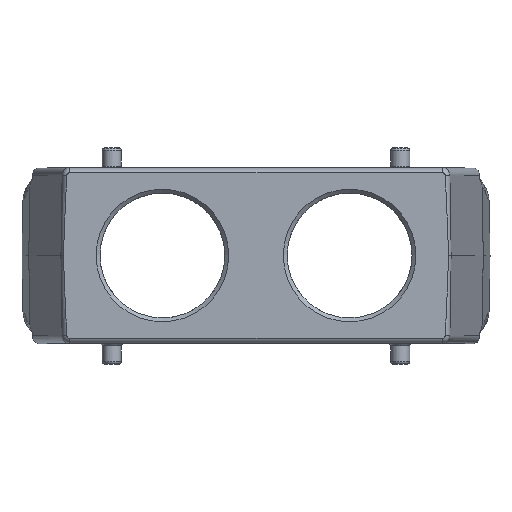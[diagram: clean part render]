
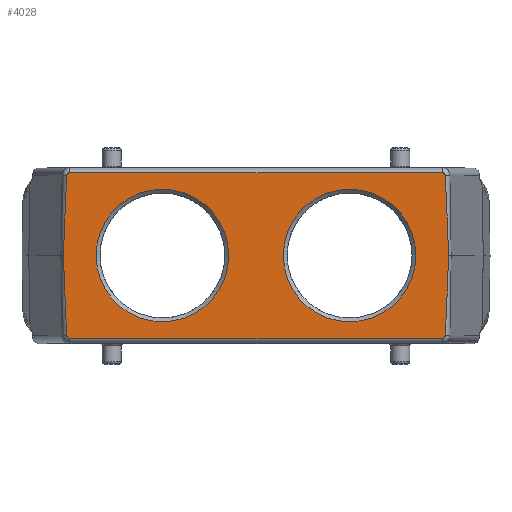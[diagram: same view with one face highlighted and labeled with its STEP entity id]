
A CAD part, top view. The second image highlights one B-rep face of the part: STEP entity #4028.
In plain terms, the highlighted planar face has unit normal (0, 0, 1).
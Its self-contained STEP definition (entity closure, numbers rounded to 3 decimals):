
#2940=ELLIPSE('',#10520,114.609,2.);
#2941=ELLIPSE('',#10525,114.609,2.);
#2942=ELLIPSE('',#10535,114.609,2.);
#2944=ELLIPSE('',#10540,114.609,2.);
#4028=ADVANCED_FACE('',(#5336,#5337,#5338),#4250,.T.);
#4250=PLANE('',#11085);
#4330=LINE('',#13433,#4819);
#4334=LINE('',#13466,#4823);
#4819=VECTOR('',#11341,1.);
#4823=VECTOR('',#11379,1.);
#5336=FACE_BOUND('',#5863,.T.);
#5337=FACE_BOUND('',#5864,.T.);
#5338=FACE_BOUND('',#5865,.T.);
#5863=EDGE_LOOP('',(#7910));
#5864=EDGE_LOOP('',(#7911));
#5865=EDGE_LOOP('',(#7912,#7913,#7914,#7915,#7916,#7917,#7918,#7919,#7920,
#7921));
#7910=ORIENTED_EDGE('',*,*,#9721,.T.);
#7911=ORIENTED_EDGE('',*,*,#9722,.T.);
#7912=ORIENTED_EDGE('',*,*,#8833,.F.);
#7913=ORIENTED_EDGE('',*,*,#8839,.F.);
#7914=ORIENTED_EDGE('',*,*,#8845,.F.);
#7915=ORIENTED_EDGE('',*,*,#8851,.F.);
#7916=ORIENTED_EDGE('',*,*,#8856,.F.);
#7917=ORIENTED_EDGE('',*,*,#8853,.F.);
#7918=ORIENTED_EDGE('',*,*,#8847,.F.);
#7919=ORIENTED_EDGE('',*,*,#8841,.F.);
#7920=ORIENTED_EDGE('',*,*,#8835,.F.);
#7921=ORIENTED_EDGE('',*,*,#8829,.F.);
#8136=VERTEX_POINT('',#13420);
#8137=VERTEX_POINT('',#13422);
#8139=VERTEX_POINT('',#13428);
#8141=VERTEX_POINT('',#13434);
#8143=VERTEX_POINT('',#13440);
#8145=VERTEX_POINT('',#13446);
#8148=VERTEX_POINT('',#13453);
#8149=VERTEX_POINT('',#13458);
#8151=VERTEX_POINT('',#13464);
#8153=VERTEX_POINT('',#13470);
#8682=VERTEX_POINT('',#18528);
#8683=VERTEX_POINT('',#18530);
#8829=EDGE_CURVE('',#8136,#8137,#9786,.T.);
#8833=EDGE_CURVE('',#8139,#8136,#2940,.T.);
#8835=EDGE_CURVE('',#8137,#8141,#4330,.T.);
#8839=EDGE_CURVE('',#8143,#8139,#2941,.T.);
#8841=EDGE_CURVE('',#8141,#8145,#9791,.T.);
#8845=EDGE_CURVE('',#8148,#8143,#9795,.T.);
#8847=EDGE_CURVE('',#8145,#8149,#2942,.T.);
#8851=EDGE_CURVE('',#8151,#8148,#4334,.T.);
#8853=EDGE_CURVE('',#8149,#8153,#2944,.T.);
#8856=EDGE_CURVE('',#8153,#8151,#9799,.T.);
#9721=EDGE_CURVE('',#8682,#8682,#9966,.T.);
#9722=EDGE_CURVE('',#8683,#8683,#9967,.T.);
#9786=CIRCLE('',#10515,0.74);
#9791=CIRCLE('',#10527,0.74);
#9795=CIRCLE('',#10532,0.74);
#9799=CIRCLE('',#10543,0.74);
#9966=CIRCLE('',#11083,17.);
#9967=CIRCLE('',#11084,17.);
#10515=AXIS2_PLACEMENT_3D('',#13421,#11326,#11327);
#10520=AXIS2_PLACEMENT_3D('',#13430,#11336,#11337);
#10525=AXIS2_PLACEMENT_3D('',#13442,#11349,#11350);
#10527=AXIS2_PLACEMENT_3D('',#13445,#11354,#11355);
#10532=AXIS2_PLACEMENT_3D('',#13454,#11364,#11365);
#10535=AXIS2_PLACEMENT_3D('',#13457,#11370,#11371);
#10540=AXIS2_PLACEMENT_3D('',#13469,#11383,#11384);
#10543=AXIS2_PLACEMENT_3D('',#13475,#11390,#11391);
#11083=AXIS2_PLACEMENT_3D('',#18527,#12897,#12898);
#11084=AXIS2_PLACEMENT_3D('',#18529,#12899,#12900);
#11085=AXIS2_PLACEMENT_3D('',#18531,#12901,#12902);
#11326=DIRECTION('',(0.,0.,-1.));
#11327=DIRECTION('',(-1.,0.,0.));
#11336=DIRECTION('',(0.,0.,-1.));
#11337=DIRECTION('',(-0.014,-1.,0.));
#11341=DIRECTION('',(1.,0.,0.));
#11349=DIRECTION('',(0.,0.,-1.));
#11350=DIRECTION('',(0.014,-1.,0.));
#11354=DIRECTION('',(0.,0.,-1.));
#11355=DIRECTION('',(-1.,0.,0.));
#11364=DIRECTION('',(0.,0.,-1.));
#11365=DIRECTION('',(-1.,0.,0.));
#11370=DIRECTION('',(0.,0.,-1.));
#11371=DIRECTION('',(0.014,-1.,0.));
#11379=DIRECTION('',(-1.,0.,0.));
#11383=DIRECTION('',(0.,0.,-1.));
#11384=DIRECTION('',(-0.014,-1.,0.));
#11390=DIRECTION('',(0.,0.,-1.));
#11391=DIRECTION('',(-1.,0.,0.));
#12897=DIRECTION('',(0.,0.,-1.));
#12898=DIRECTION('',(1.,0.,0.));
#12899=DIRECTION('',(0.,0.,-1.));
#12900=DIRECTION('',(1.,0.,0.));
#12901=DIRECTION('',(0.,0.,1.));
#12902=DIRECTION('',(-1.,0.,0.));
#13420=CARTESIAN_POINT('',(-48.492,20.543,66.35));
#13421=CARTESIAN_POINT('',(-47.753,20.5,66.35));
#13422=CARTESIAN_POINT('',(-47.753,21.24,66.35));
#13428=CARTESIAN_POINT('',(-49.372,0.,66.35));
#13430=CARTESIAN_POINT('',(-49.285,-85.952,66.35));
#13433=CARTESIAN_POINT('',(-53.287,21.24,66.35));
#13434=CARTESIAN_POINT('',(47.753,21.24,66.35));
#13440=CARTESIAN_POINT('',(-48.492,-20.543,66.35));
#13442=CARTESIAN_POINT('',(-49.285,85.952,66.35));
#13445=CARTESIAN_POINT('',(47.753,20.5,66.35));
#13446=CARTESIAN_POINT('',(48.492,20.543,66.35));
#13453=CARTESIAN_POINT('',(-47.753,-21.24,66.35));
#13454=CARTESIAN_POINT('',(-47.753,-20.5,66.35));
#13457=CARTESIAN_POINT('',(49.285,-85.952,66.35));
#13458=CARTESIAN_POINT('',(49.372,0.,66.35));
#13464=CARTESIAN_POINT('',(47.753,-21.24,66.35));
#13466=CARTESIAN_POINT('',(-49.697,-21.24,66.35));
#13469=CARTESIAN_POINT('',(49.285,85.952,66.35));
#13470=CARTESIAN_POINT('',(48.492,-20.543,66.35));
#13475=CARTESIAN_POINT('',(47.753,-20.5,66.35));
#18527=CARTESIAN_POINT('',(-24.,0.012,66.35));
#18528=CARTESIAN_POINT('',(-7.,0.012,66.35));
#18529=CARTESIAN_POINT('',(24.,0.012,66.35));
#18530=CARTESIAN_POINT('',(41.,0.012,66.35));
#18531=CARTESIAN_POINT('',(-55.,-29.988,66.35));
